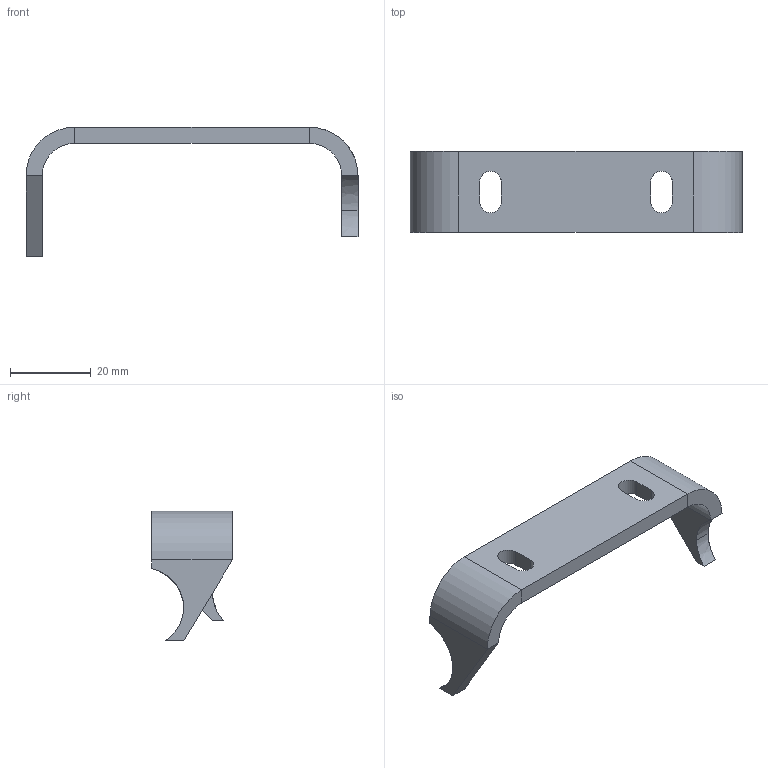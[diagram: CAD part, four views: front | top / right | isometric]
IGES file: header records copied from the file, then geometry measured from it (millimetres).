
Start section: START RECORD GO HERE.
Global section: file name: SU_15010 (y chape).igs; native system: IBM CATIA IGES - CATIA Version 5 Release 19 ; preprocessor: CATIA Version 5 Release 19 ; author: Martin Kawczynski; organization: DESKTOP-UDLM1FC; date: 20200108.160334; units: millimetre
Bounding box: 82 x 20 x 32 mm (x, y, z)
Surface area: 5291.3 mm2 (no closed solid volume)
Topology: 0 solids, 0 shells, 34 faces, 165 edges, 168 vertices
Faces by surface type: plane 21, revolution 8, extrusion 4, bspline 1
